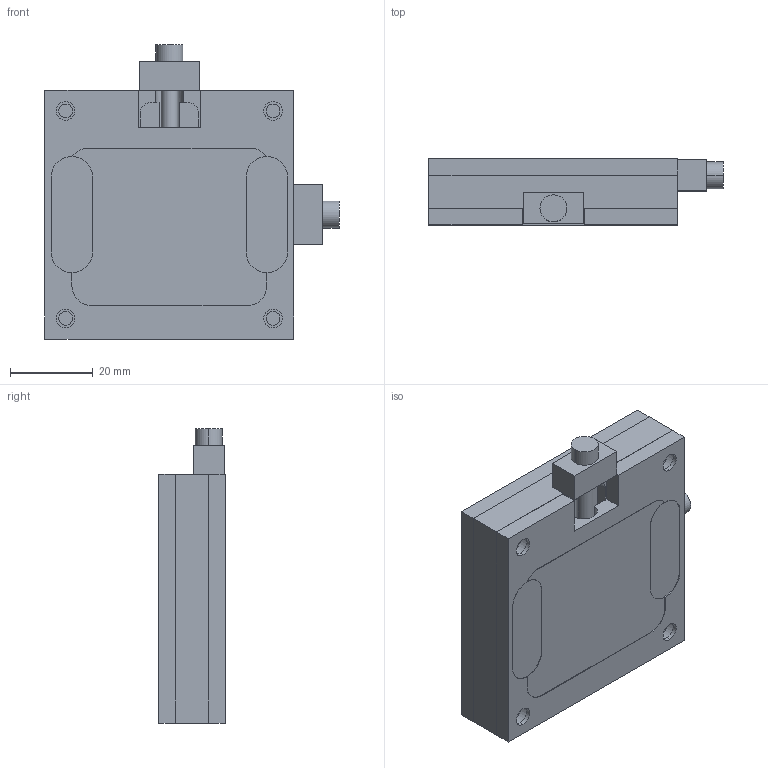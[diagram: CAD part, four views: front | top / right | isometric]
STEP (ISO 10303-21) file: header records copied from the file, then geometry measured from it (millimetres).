
FILE_DESCRIPTION (( 'STEP AP203' ), '1' );
FILE_NAME ('LD-T6052FX_ver3.STEP', '2017-02-28T05:18:08', ( '' ), ( '' ), 'SwSTEP 2.0', 'SolidWorks 2016', '' );
FILE_SCHEMA (( 'CONFIG_CONTROL_DESIGN' ));
Length unit declared in the file: millimetre
Products named in the file (4): LD-T6052FX_ver3-1; LD-T6052FX_ver3-2; LD-T6052FX_ver3-3; LD-T6052FX_ver3
Assembly tree (3 placements, depth 2):
  LD-T6052FX_ver3
    LD-T6052FX_ver3-1
    LD-T6052FX_ver3-2
    LD-T6052FX_ver3-3
Bounding box: 70.9 x 16 x 70.9 mm (x, y, z)
Volume: 54368.7 mm3; surface area: 33527.5 mm2
Topology: 3 solids, 8 shells, 291 faces, 704 edges, 460 vertices
Faces by surface type: cylinder 140, plane 127, cone 8, sphere 8, torus 8
Entity records: 9082 total; most frequent: DIRECTION 1646, CARTESIAN_POINT 1461, ORIENTED_EDGE 1408, EDGE_CURVE 704, AXIS2_PLACEMENT_3D 645, VERTEX_POINT 460, LINE 356, VECTOR 356
